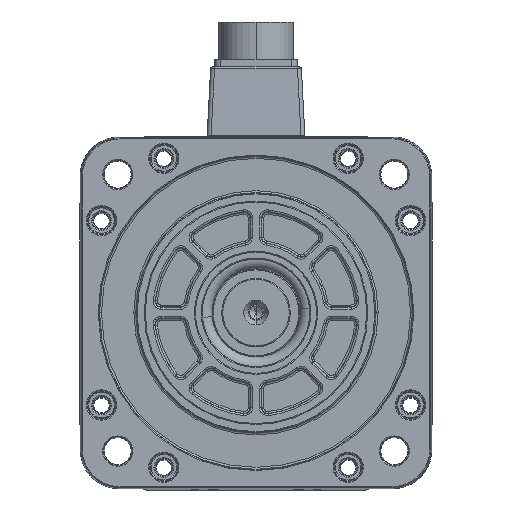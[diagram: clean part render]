
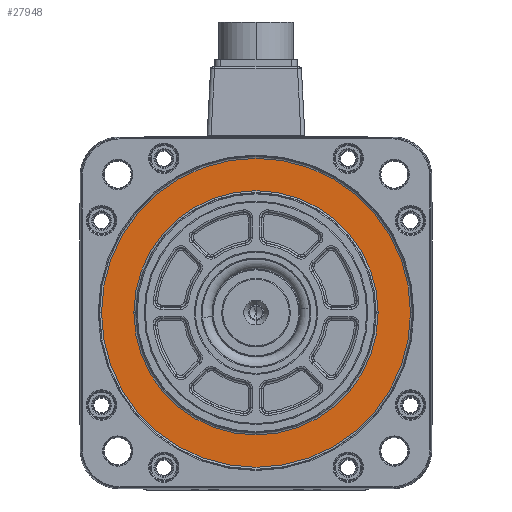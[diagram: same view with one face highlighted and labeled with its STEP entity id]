
A CAD part, top view. The second image highlights one B-rep face of the part: STEP entity #27948.
In plain terms, the highlighted planar face has unit normal (0, 0, 1).
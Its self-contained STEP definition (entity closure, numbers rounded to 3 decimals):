
#8223 = FACE_BOUND ( 'NONE', #32281, .T. ) ;
#15915 = VERTEX_POINT ( 'NONE', #62499 ) ;
#18641 = FACE_OUTER_BOUND ( 'NONE', #87944, .T. ) ;
#22076 = EDGE_CURVE ( 'NONE', #83249, #86419, #112466, .T. ) ;
#25500 = CARTESIAN_POINT ( 'NONE',  ( 0., 0., 15. ) ) ;
#27948 = ADVANCED_FACE ( 'NONE', ( #18641, #8223 ), #86716, .T. ) ;
#31290 = EDGE_CURVE ( 'NONE', #15915, #38302, #73368, .T. ) ;
#32281 = EDGE_LOOP ( 'NONE', ( #87224, #60830 ) ) ;
#32951 = ORIENTED_EDGE ( 'NONE', *, *, #31290, .T. ) ;
#38302 = VERTEX_POINT ( 'NONE', #85765 ) ;
#41152 = DIRECTION ( 'NONE',  ( 0., 0., 1. ) ) ;
#42965 = DIRECTION ( 'NONE',  ( 1., 0., 0. ) ) ;
#43540 = AXIS2_PLACEMENT_3D ( 'NONE', #65001, #107437, #74724 ) ;
#45513 = CIRCLE ( 'NONE', #110054, 62.466 ) ;
#53301 = CARTESIAN_POINT ( 'NONE',  ( 62.466, 0., 15. ) ) ;
#60830 = ORIENTED_EDGE ( 'NONE', *, *, #76537, .T. ) ;
#62499 = CARTESIAN_POINT ( 'NONE',  ( 79.034, 0., 15. ) ) ;
#64092 = DIRECTION ( 'NONE',  ( 1., 0., 0. ) ) ;
#64168 = AXIS2_PLACEMENT_3D ( 'NONE', #106248, #130582, #42965 ) ;
#65001 = CARTESIAN_POINT ( 'NONE',  ( 0., 0., 15. ) ) ;
#67955 = DIRECTION ( 'NONE',  ( 1., 0., 0. ) ) ;
#73368 = CIRCLE ( 'NONE', #126617, 79.034 ) ;
#74724 = DIRECTION ( 'NONE',  ( 1., 0., 0. ) ) ;
#76537 = EDGE_CURVE ( 'NONE', #86419, #83249, #45513, .T. ) ;
#83249 = VERTEX_POINT ( 'NONE', #53301 ) ;
#85765 = CARTESIAN_POINT ( 'NONE',  ( -79.034, 0., 15. ) ) ;
#86419 = VERTEX_POINT ( 'NONE', #120051 ) ;
#86716 = PLANE ( 'NONE',  #64168 ) ;
#87224 = ORIENTED_EDGE ( 'NONE', *, *, #22076, .T. ) ;
#87944 = EDGE_LOOP ( 'NONE', ( #32951, #111411 ) ) ;
#88378 = CARTESIAN_POINT ( 'NONE',  ( 0., 0., 15. ) ) ;
#91158 = CIRCLE ( 'NONE', #129023, 79.034 ) ;
#106248 = CARTESIAN_POINT ( 'NONE',  ( 0., 0., 15. ) ) ;
#107437 = DIRECTION ( 'NONE',  ( 0., 0., -1. ) ) ;
#110054 = AXIS2_PLACEMENT_3D ( 'NONE', #25500, #121488, #67955 ) ;
#111411 = ORIENTED_EDGE ( 'NONE', *, *, #115995, .T. ) ;
#112466 = CIRCLE ( 'NONE', #43540, 62.466 ) ;
#115995 = EDGE_CURVE ( 'NONE', #38302, #15915, #91158, .T. ) ;
#119023 = DIRECTION ( 'NONE',  ( 1., 0., 0. ) ) ;
#120051 = CARTESIAN_POINT ( 'NONE',  ( -62.466, 0., 15. ) ) ;
#121488 = DIRECTION ( 'NONE',  ( 0., 0., -1. ) ) ;
#126617 = AXIS2_PLACEMENT_3D ( 'NONE', #88378, #130869, #119023 ) ;
#129023 = AXIS2_PLACEMENT_3D ( 'NONE', #135097, #41152, #64092 ) ;
#130582 = DIRECTION ( 'NONE',  ( 0., 0., 1. ) ) ;
#130869 = DIRECTION ( 'NONE',  ( 0., 0., 1. ) ) ;
#135097 = CARTESIAN_POINT ( 'NONE',  ( 0., 0., 15. ) ) ;
